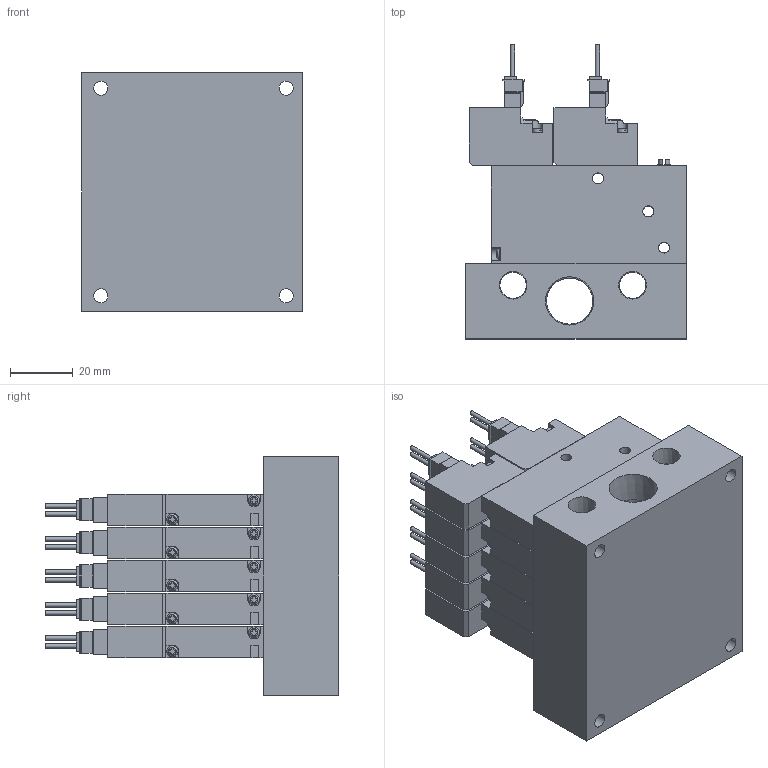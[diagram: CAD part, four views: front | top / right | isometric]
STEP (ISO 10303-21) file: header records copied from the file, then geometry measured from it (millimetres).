
FILE_DESCRIPTION(('STEP AP203'),'1');
FILE_NAME('BMPV42MZZ5A(B)505.stp','2025-04-30T01:53:44',(' '),(' '),'Spatial InterOp 3D',' ',' ');
FILE_SCHEMA(('CONFIG_CONTROL_DESIGN'));
Length unit declared in the file: millimetre
Products named in the file (4): BMPV42MZZ5A(B)505; VACUUM VALVE FUNCTION MPV42-A; UNIT-MPV42; MPV42-M50R-1
Assembly tree (16 placements, depth 2):
  BMPV42MZZ5A(B)505
    VACUUM VALVE FUNCTION MPV42-A  x10
    UNIT-MPV42  x5
    MPV42-M50R-1
Bounding box: 70 x 93.45 x 76 mm (x, y, z)
Volume: 245445.4 mm3; surface area: 79641 mm2
Topology: 16 solids, 16 shells, 1324 faces, 3569 edges, 2377 vertices
Faces by surface type: plane 1076, cylinder 207, cone 21, sphere 10, torus 10
Full cylindrical faces by diameter (mm): 1.4 x20, 1.8 x5, 2.2 x10, 3 x20, 3.5 x35, 4.134 x5, 4.5 x4, 5 x5, 8.441 x2, 14.744 x1
Entity records: 5724 total; most frequent: CARTESIAN_POINT 1045, DIRECTION 918, ORIENTED_EDGE 860, EDGE_CURVE 430, LINE 322, VECTOR 322, VERTEX_POINT 305, AXIS2_PLACEMENT_3D 298
